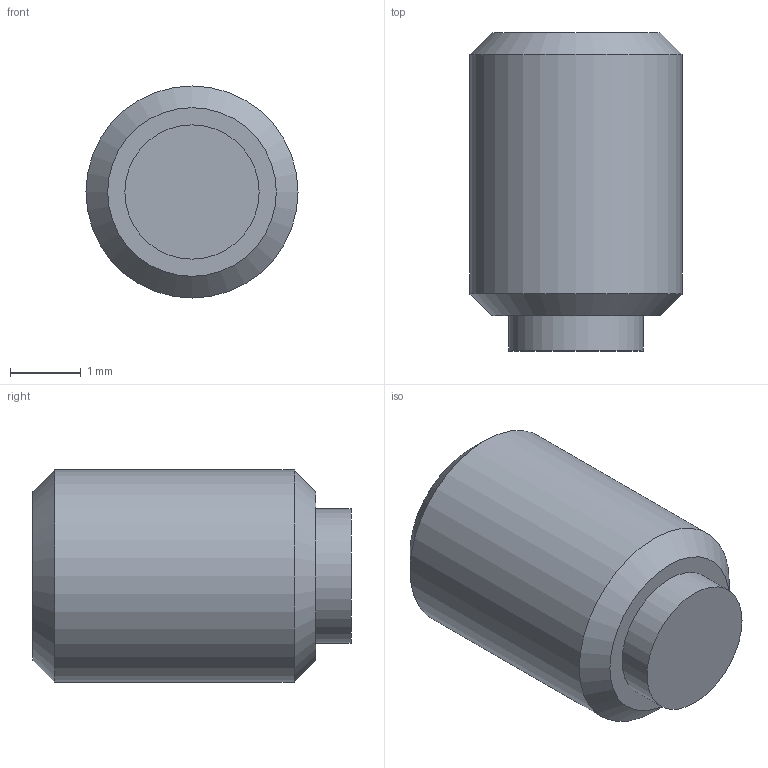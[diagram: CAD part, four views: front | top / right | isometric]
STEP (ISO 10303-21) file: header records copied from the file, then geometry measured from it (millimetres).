
FILE_DESCRIPTION( ( 'STEP AP203' ), '1' );
FILE_NAME( 'C:/Temp/Ganter_Step_05_03_2020/data/3_2/gn913_3/Grub screw GN 913.3-M3-4-MS.stp', '2020-03-13T05:35:43', ( 'License CC BY-ND 4.0' ), ( 'CADENAS' ), ' ', 'PARTsolutions', ' ' );
FILE_SCHEMA( ( 'CONFIG_CONTROL_DESIGN' ) );
Length unit declared in the file: millimetre
Products named in the file (1): _Grub screw GN 913.3-M3-4-MS
Bounding box: 3 x 4.5 x 3 mm (x, y, z)
Volume: 25.9 mm3; surface area: 59 mm2
Topology: 1 solids, 1 shells, 14 faces, 28 edges, 18 vertices
Faces by surface type: plane 10, cylinder 2, cone 2
Full cylindrical faces by diameter (mm): 1.9 x1, 3 x1
Entity records: 386 total; most frequent: DIRECTION 60, CARTESIAN_POINT 57, ORIENTED_EDGE 48, EDGE_CURVE 24, AXIS2_PLACEMENT_3D 21, EDGE_LOOP 20, VERTEX_POINT 18, LINE 18
